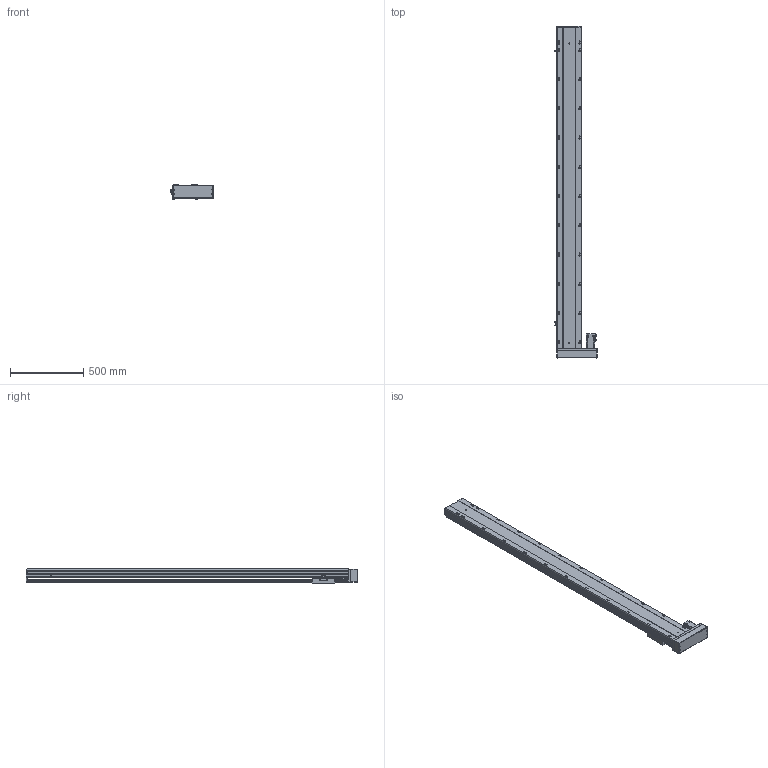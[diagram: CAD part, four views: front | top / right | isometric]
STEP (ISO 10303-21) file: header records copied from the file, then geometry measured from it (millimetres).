
FILE_DESCRIPTION (( 'STEP AP203' ), '1' );
FILE_NAME ('37.STEP', '2021-01-06T00:36:55', ( '' ), ( '' ), 'SwSTEP 2.0', 'SolidWorks 2016', '' );
FILE_SCHEMA (( 'CONFIG_CONTROL_DESIGN' ));
Length unit declared in the file: millimetre
Products named in the file (7): BTH17M-BR-T40; BTH17M-BR-菁釱; BTH17M-BR-HZ; BTH17M-BR-04; BTH17M-BR-02_100; 37; BTH17M-BR-01
Assembly tree (8 placements, depth 2):
  37
    BTH17M-BR-菁釱
    BTH17M-BR-01
    BTH17M-BR-04  x3
    BTH17M-BR-HZ
    BTH17M-BR-02_100
    BTH17M-BR-T40
Bounding box: 289.2 x 2271.2 x 97 mm (x, y, z)
Volume: 15070147.7 mm3; surface area: 2529366 mm2
Topology: 17 solids, 17 shells, 1432 faces, 3825 edges, 2437 vertices
Faces by surface type: plane 776, cylinder 540, cone 80, bspline 28, sphere 8
Entity records: 39223 total; most frequent: CARTESIAN_POINT 8471, DIRECTION 6290, ORIENTED_EDGE 6206, EDGE_CURVE 3103, AXIS2_PLACEMENT_3D 2192, VERTEX_POINT 2013, LINE 1906, VECTOR 1906
